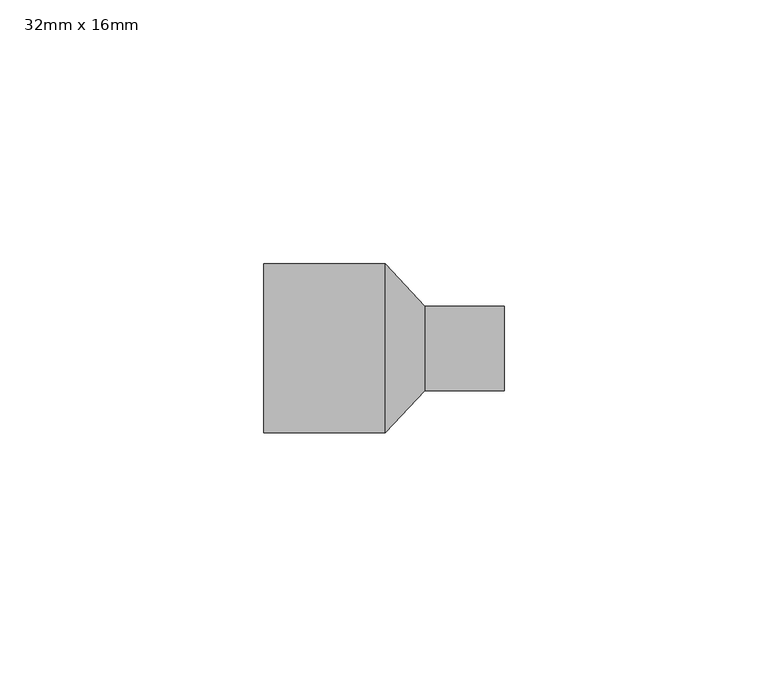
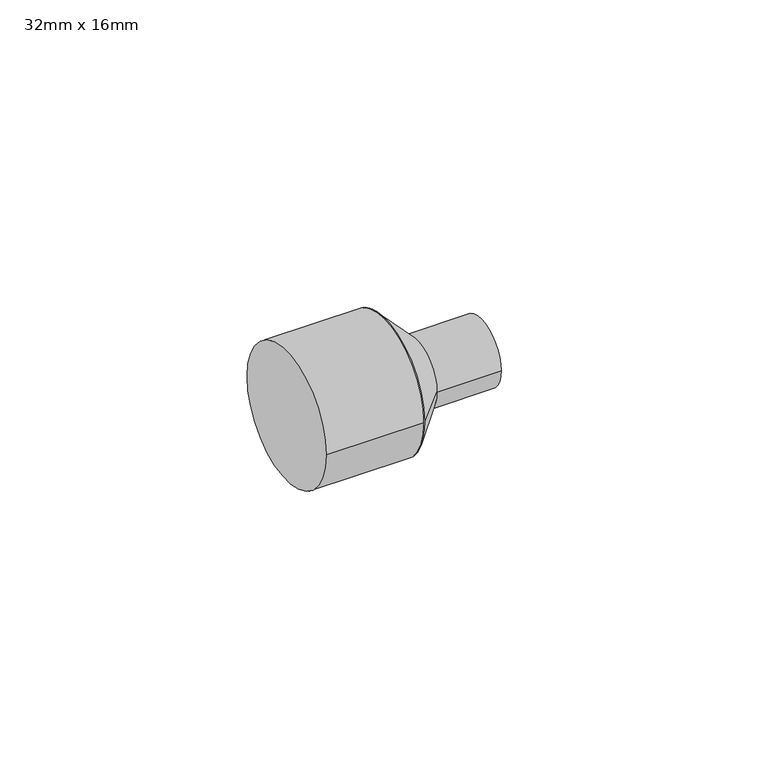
"""IFC4 building model written with IfcOpenShell, lengths in millimetres: pipe fitting geometry, PipeFitting_HTA_CPVC_ReducingBushesLongPattern : 32mm x 16mm."""

from ifc_helpers import new_model, si_unit, point, frame, origin, origin_2d, place, context, project, spatial, polyline, circle_curve, trimmed, segment, composite_curve, outline, extrude, source, transform, mapped, element, save
from ifc_brep_helpers import plane_surface, revolved_surface, advanced_brep


def pipe_fitting_32mm_x_16mm_cd47bb3c(model_context):
    return source(origin(), model_context, "Body", "SolidModel", [
        advanced_brep(
        [(30.5, -8.0, 0.0), (30.5, 8.0, 0.0), (23.0, -16.0, 0.0), (23.0, 16.0, 0.0)],
        [
            (0, 1, circle_curve(frame((30.5, 0.0, 0.0), z_axis=(1.0, 0.0, 0.0), x_axis=(0.0, -1.0, 0.0)), 8.0)),
            (1, 0, circle_curve(frame((30.5, 0.0, 0.0), z_axis=(1.0, 0.0, 0.0), x_axis=(0.0, 1.0, 0.0)), 8.0)),
            (2, 3, circle_curve(frame((23.0, 0.0, 0.0), z_axis=(-1.0, 0.0, 0.0), x_axis=(0.0, 1.0, 0.0)), 16.0)),
            (3, 2, circle_curve(frame((23.0, 0.0, 0.0), z_axis=(-1.0, 0.0, 0.0), x_axis=(0.0, -1.0, 0.0)), 16.0)),
            (3, 1),
            (0, 2),
        ],
        [
            plane_surface(frame((30.5, 0.0, 0.0), z_axis=(1.0, 0.0, 0.0), x_axis=(0.0, 0.0, -1.0))),
            plane_surface(frame((23.0, 0.0, 0.0), z_axis=(-1.0, 0.0, 0.0), x_axis=(0.0, 0.0, -1.0))),
            revolved_surface(polyline([(30.5, -8.0, 0.0), (23.0, -16.0, 0.0)]), (38.0, 0.0, 0.0), (-1.0, 0.0, 0.0)),
            revolved_surface(polyline([(30.5, 8.0, 0.0), (23.0, 16.0, 0.0)]), (38.0, 0.0, 0.0), (-1.0, 0.0, 0.0)),
        ],
        [
            (0, [[1, 2]]),
            (1, [[3, 4]]),
            (2, [[-4, 5, -1, 6]]),
            (3, [[-3, -6, -2, -5]]),
        ],
    ),
        extrude(outline(composite_curve([segment(trimmed(circle_curve(origin_2d(), 8.0), [point((-8.0, 0.0))], [point((8.0, 0.0))], False, "CARTESIAN"), True, "CONTINUOUS"), segment(trimmed(circle_curve(origin_2d(), 8.0), [point((8.0, 0.0))], [point((-8.0, 0.0))], False, "CARTESIAN"), True, "CONTINUOUS")], self_intersect=False)), frame((30.5, 0.0, 0.0), z_axis=(1.0, 0.0, 0.0), x_axis=(0.0, 1.0, 0.0)), (0.0, 0.0, 1.0), 15.0),
        extrude(outline(composite_curve([segment(trimmed(circle_curve(origin_2d(), 16.0), [point((-16.0, 0.0))], [point((16.0, 0.0))], False, "CARTESIAN"), True, "CONTINUOUS"), segment(trimmed(circle_curve(origin_2d(), 16.0), [point((16.0, 0.0))], [point((-16.0, 0.0))], False, "CARTESIAN"), True, "CONTINUOUS")], self_intersect=False)), frame((0.0, 0.0, 0.0), z_axis=(1.0, 0.0, 0.0), x_axis=(0.0, 1.0, 0.0)), (0.0, 0.0, 1.0), 23.0),
    ])


if __name__ == "__main__":
    model = new_model("IFC4")
    model_context = context("Model", 3, world=origin())
    ifc_project = project(units=[si_unit("LENGTHUNIT", "METRE", prefix="MILLI")], contexts=[model_context])
    site = spatial("IfcSite", under=ifc_project)
    building = spatial("IfcBuilding", under=site)
    placement = place(None, origin())
    pipe_fitting_32mm_x_16mm_shape = pipe_fitting_32mm_x_16mm_cd47bb3c(model_context)
    element("IfcPipeFitting", 1, ObjectType="PipeFitting_HTA_CPVC_ReducingBushesLongPattern : 32mm x 16mm", at=placement, inside=building, context=model_context, shape_type="MappedRepresentation", body=[
        mapped(pipe_fitting_32mm_x_16mm_shape, transform((0.0, 0.0, 0.0), x_axis=(1.0, 0.0, 0.0), y_axis=(0.0, 1.0, 0.0), z_axis=(0.0, 0.0, 1.0))),
    ])
    save(model, "model.ifc")
